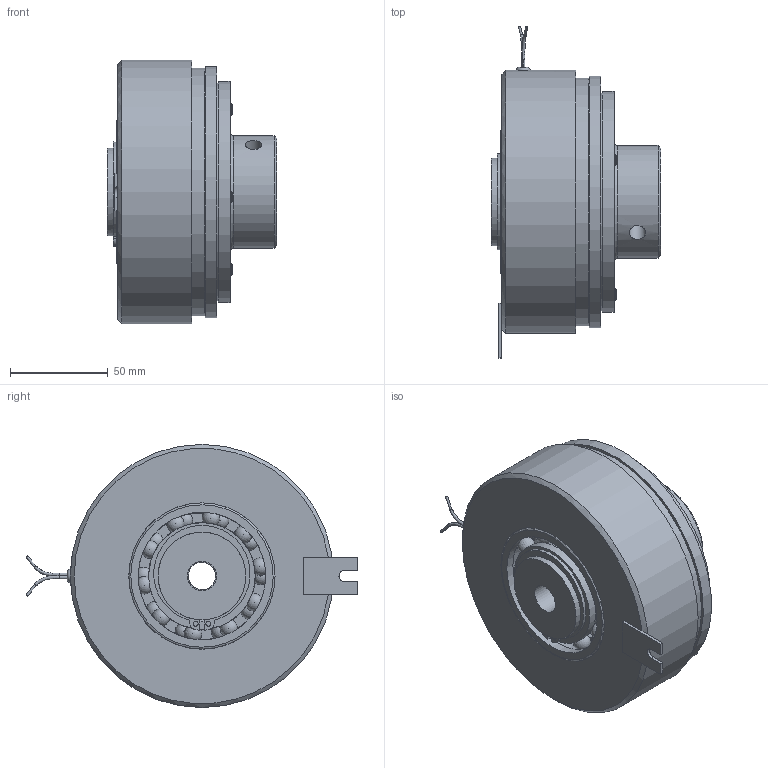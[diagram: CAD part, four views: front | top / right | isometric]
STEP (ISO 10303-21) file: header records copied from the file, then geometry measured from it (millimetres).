
FILE_DESCRIPTION(/* description */ (''),/* implementation_level */ '2;1');
FILE_NAME(/* name */ 'T:\INVENTOR\DISEGNI\08_Freni_Friz_Elettmag_Monodisco\08_25 EMSL\08_25_130_02 EMSL 130_ME\08_25_130_02 EMSL130_ME@STEP.stp',/* time_stamp */ '2022-05-04T12:18:33+02:00',/* author */ ('w.sartori'),/* organization */ (''),/* preprocessor_version */ 'ST-DEVELOPER v18.1',/* originating_system */ 'Autodesk Inventor 2021',/* authorisation */ '');
FILE_SCHEMA (('AUTOMOTIVE_DESIGN { 1 0 10303 214 3 1 1 }'));
Length unit declared in the file: millimetre
Products named in the file (1): 08_25_130_02 EMSL130_ME
Bounding box: 87.1 x 170.22 x 135 mm (x, y, z)
Volume: 685009.2 mm3; surface area: 166454.1 mm2
Topology: 3 solids, 7 shells, 330 faces, 930 edges, 603 vertices
Faces by surface type: plane 126, cylinder 109, torus 56, sphere 20, cone 17, bspline 2
Full cylindrical faces by diameter (mm): 1.154 x2, 1.5 x1, 2 x3, 2.5 x2, 3 x2, 6 x7, 6.1 x3, 8.376 x2, 10 x3, 10.5 x3, 14 x1, 15 x7, 42.5 x1, 44.5 x1, 45 x4, 54.6 x4, 55 x1, 58 x1, 65.4 x4, 71 x1, 72 x1, 75 x4, 78 x1, 85 x1, 85.2 x1, 97 x1, 112 x1, 113.5 x1, 117 x1, 127 x1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
Entity records: 13123 total; most frequent: CARTESIAN_POINT 4326, DIRECTION 1800, ORIENTED_EDGE 1780, EDGE_CURVE 890, AXIS2_PLACEMENT_3D 785, VERTEX_POINT 604, CIRCLE 456, EDGE_LOOP 439
